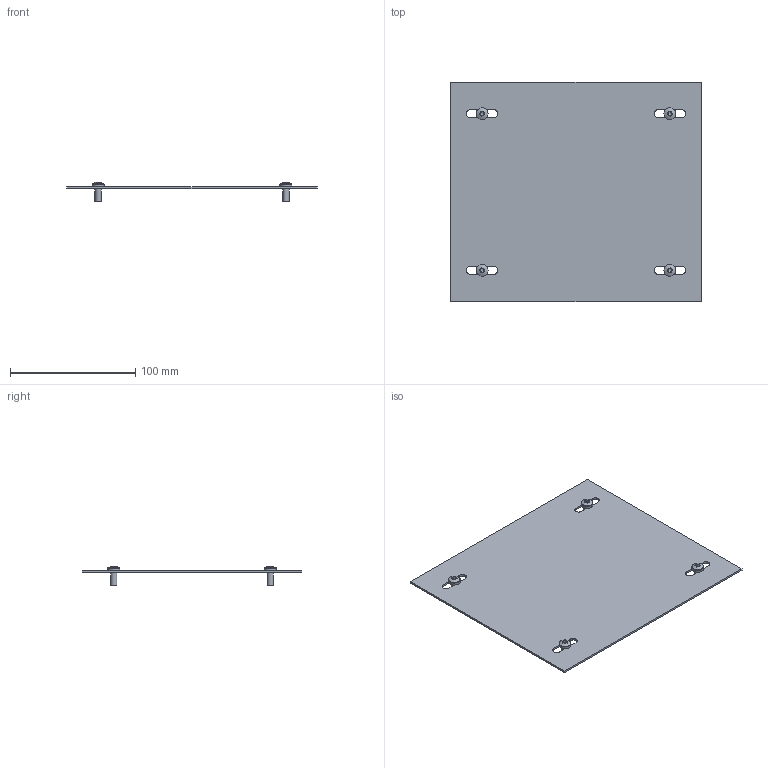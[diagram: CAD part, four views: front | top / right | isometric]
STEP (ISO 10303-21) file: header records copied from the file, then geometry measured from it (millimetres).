
FILE_DESCRIPTION(('Open CASCADE Model'),'2;1');
FILE_NAME('Open CASCADE Shape Model','2025-03-28T17:53:16',('Author'),( 'Open CASCADE'),'Open CASCADE STEP processor 7.8','Open CASCADE 7.8' ,'Unknown');
FILE_SCHEMA(('AUTOMOTIVE_DESIGN { 1 0 10303 214 1 1 1 1 }'));
Length unit declared in the file: millimetre
Products named in the file (3): Compound1; Solid1; Solid2
Assembly tree (5 placements, depth 2):
  Compound1
    Solid1
    Solid2  x4
Bounding box: 200 x 175 x 15.56 mm (x, y, z)
Volume: 53275.7 mm3; surface area: 71942.5 mm2
Topology: 5 solids, 5 shells, 86 faces, 180 edges, 108 vertices
Faces by surface type: plane 46, cylinder 16, torus 8, cone 8, sphere 4, bspline 4
Full cylindrical faces by diameter (mm): 5 x4, 9.5 x4
Entity records: 1508 total; most frequent: CARTESIAN_POINT 562, DIRECTION 190, ORIENTED_EDGE 178, EDGE_CURVE 89, AXIS2_PLACEMENT_3D 73, VERTEX_POINT 57, FACE_BOUND 48, EDGE_LOOP 48
